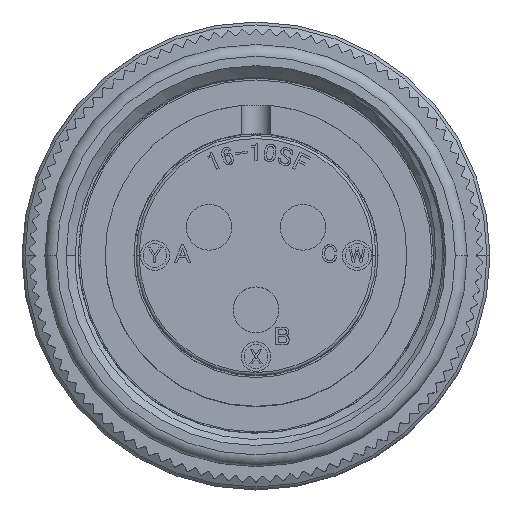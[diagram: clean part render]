
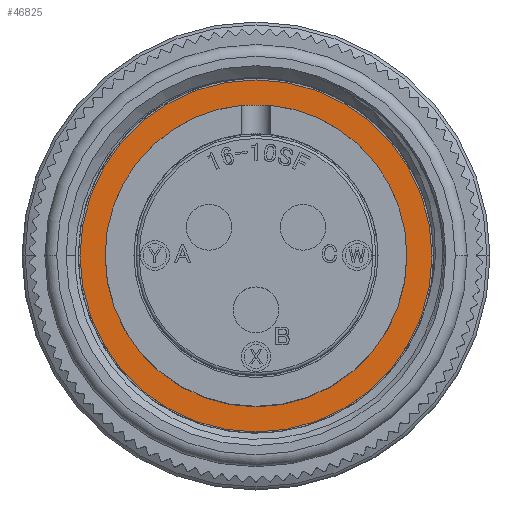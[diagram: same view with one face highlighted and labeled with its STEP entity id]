
A CAD part, top view. The second image highlights one B-rep face of the part: STEP entity #46825.
In plain terms, the highlighted planar face has unit normal (0, 0, 1).
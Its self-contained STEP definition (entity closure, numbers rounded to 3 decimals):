
#2234 = ORIENTED_EDGE ( 'NONE', *, *, #41590, .F. ) ;
#3101 = CIRCLE ( 'NONE', #85257, 10.22 ) ;
#6202 = DIRECTION ( 'NONE',  ( 0., 0., -1. ) ) ;
#9406 = CARTESIAN_POINT ( 'NONE',  ( 0., 11.925, -18.25 ) ) ;
#19674 = AXIS2_PLACEMENT_3D ( 'NONE', #77601, #37592, #84375 ) ;
#20442 = ORIENTED_EDGE ( 'NONE', *, *, #81960, .F. ) ;
#21625 = EDGE_LOOP ( 'NONE', ( #20442, #2234 ) ) ;
#24434 = VERTEX_POINT ( 'NONE', #82147 ) ;
#24911 = ORIENTED_EDGE ( 'NONE', *, *, #49452, .T. ) ;
#25179 = AXIS2_PLACEMENT_3D ( 'NONE', #9406, #69622, #29596 ) ;
#26931 = CARTESIAN_POINT ( 'NONE',  ( -10.22, 0., -18.25 ) ) ;
#29596 = DIRECTION ( 'NONE',  ( -1., 0., 0. ) ) ;
#30028 = EDGE_LOOP ( 'NONE', ( #24911, #63404 ) ) ;
#30179 = CARTESIAN_POINT ( 'NONE',  ( 0., 0., -18.25 ) ) ;
#35863 = DIRECTION ( 'NONE',  ( 0., 0., -1. ) ) ;
#36908 = DIRECTION ( 'NONE',  ( -1., 0., 0. ) ) ;
#37592 = DIRECTION ( 'NONE',  ( 0., 0., -1. ) ) ;
#41590 = EDGE_CURVE ( 'NONE', #24434, #83585, #51194, .T. ) ;
#43183 = CIRCLE ( 'NONE', #85441, 11.925 ) ;
#46303 = CARTESIAN_POINT ( 'NONE',  ( 0., 0., -18.25 ) ) ;
#46825 = ADVANCED_FACE ( 'NONE', ( #74492, #56685 ), #62873, .F. ) ;
#48899 = EDGE_CURVE ( 'NONE', #70755, #59044, #56528, .T. ) ;
#49452 = EDGE_CURVE ( 'NONE', #59044, #70755, #3101, .T. ) ;
#51194 = CIRCLE ( 'NONE', #80387, 11.925 ) ;
#52996 = DIRECTION ( 'NONE',  ( -1., 0., 0. ) ) ;
#56528 = CIRCLE ( 'NONE', #19674, 10.22 ) ;
#56685 = FACE_BOUND ( 'NONE', #30028, .T. ) ;
#59044 = VERTEX_POINT ( 'NONE', #26931 ) ;
#62873 = PLANE ( 'NONE',  #25179 ) ;
#63094 = CARTESIAN_POINT ( 'NONE',  ( 10.22, 0., -18.25 ) ) ;
#63404 = ORIENTED_EDGE ( 'NONE', *, *, #48899, .T. ) ;
#69622 = DIRECTION ( 'NONE',  ( 0., 0., -1. ) ) ;
#70755 = VERTEX_POINT ( 'NONE', #63094 ) ;
#71143 = CARTESIAN_POINT ( 'NONE',  ( -11.925, 0., -18.25 ) ) ;
#74492 = FACE_OUTER_BOUND ( 'NONE', #21625, .T. ) ;
#75888 = CARTESIAN_POINT ( 'NONE',  ( 0., 0., -18.25 ) ) ;
#76915 = DIRECTION ( 'NONE',  ( 0., 0., -1. ) ) ;
#77601 = CARTESIAN_POINT ( 'NONE',  ( 0., 0., -18.25 ) ) ;
#80387 = AXIS2_PLACEMENT_3D ( 'NONE', #46303, #6202, #52996 ) ;
#81960 = EDGE_CURVE ( 'NONE', #83585, #24434, #43183, .T. ) ;
#82147 = CARTESIAN_POINT ( 'NONE',  ( 11.925, 0., -18.25 ) ) ;
#82651 = DIRECTION ( 'NONE',  ( -1., 0., 0. ) ) ;
#83585 = VERTEX_POINT ( 'NONE', #71143 ) ;
#84375 = DIRECTION ( 'NONE',  ( -1., 0., 0. ) ) ;
#85257 = AXIS2_PLACEMENT_3D ( 'NONE', #30179, #76915, #36908 ) ;
#85441 = AXIS2_PLACEMENT_3D ( 'NONE', #75888, #35863, #82651 ) ;
